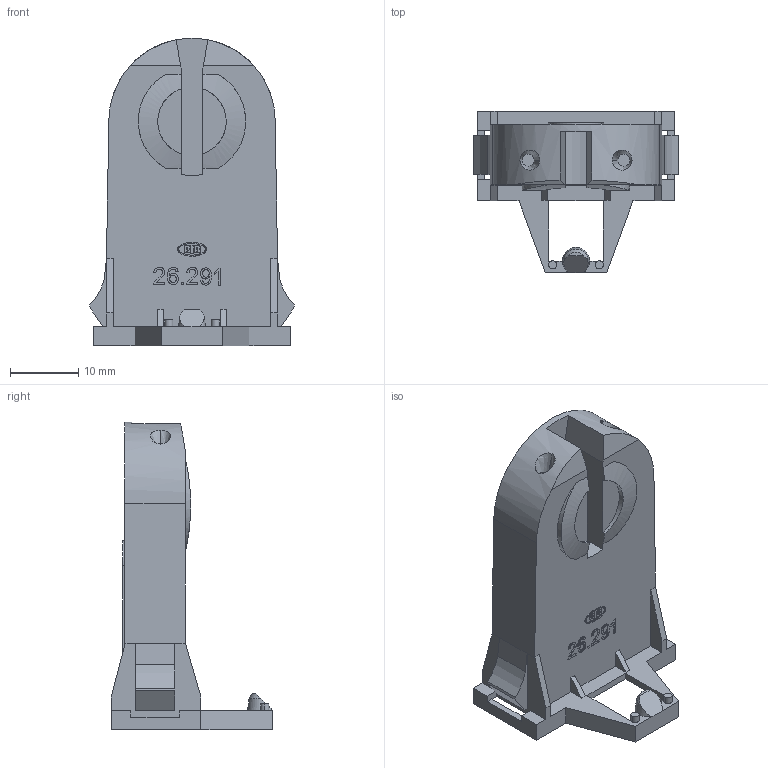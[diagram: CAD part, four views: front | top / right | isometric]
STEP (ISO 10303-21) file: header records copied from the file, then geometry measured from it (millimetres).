
FILE_DESCRIPTION(('CAx-IF Rec.Pracs.---Model Styling and Organization---1.2---2011-12-15','CAx-IF Rec.Pracs.---Geometric and Assembly Validation Properties---4.1---2014-06-16','CAx-IF Rec.Pracs.---PMI Polyline Presentation---2.0---2013-05-24'),'2;1');
FILE_NAME('005YM0UY06.stp','2018-06-11T11:43:30+02:00',(''),(''),'STEP Interface 4.1 Sp1 by CT CoreTechnologie','3D_Evolution4.1 Sp1 by CT CoreTechnologie','');
FILE_SCHEMA(('AUTOMOTIVE_DESIGN { 1 0 10303 214 1 1 1 1 }'));
Length unit declared in the file: millimetre
Products named in the file (1): 005YM0UY06
Bounding box: 30 x 23.6 x 44.95 mm (x, y, z)
Volume: 8682 mm3; surface area: 4875.4 mm2
Topology: 1 solids, 1 shells, 277 faces, 755 edges, 497 vertices
Faces by surface type: plane 171, cylinder 82, bspline 24
Entity records: 22726 total; most frequent: CARTESIAN_POINT 2765, PROPERTY_DEFINITION 1844, ORIENTED_EDGE 1510, DIRECTION 1395, SHAPE_REPRESENTATION 923, SHAPE_DEFINITION_REPRESENTATION 923, REPRESENTATION 922, SHAPE_ASPECT 922
